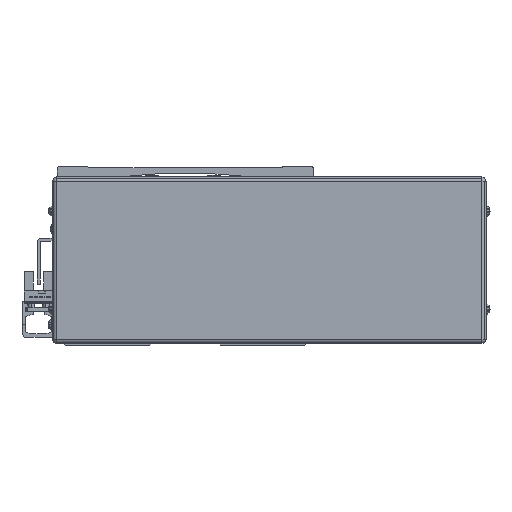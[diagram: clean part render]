
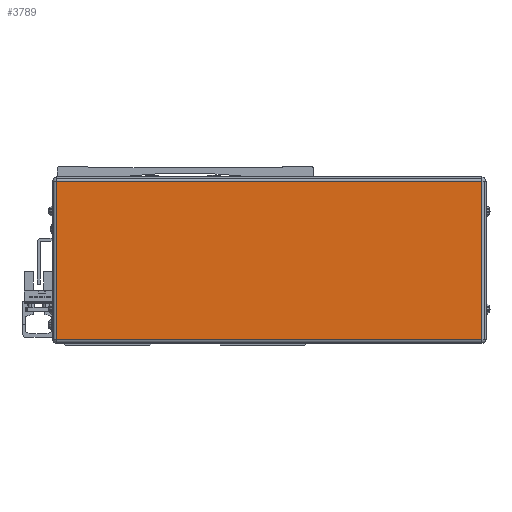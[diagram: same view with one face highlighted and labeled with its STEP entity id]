
A CAD part, front view. The second image highlights one B-rep face of the part: STEP entity #3789.
In plain terms, the highlighted planar face has unit normal (0, -1, 0).
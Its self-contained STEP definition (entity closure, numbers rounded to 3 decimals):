
#3789=ADVANCED_FACE('',(#9617),#9618,.T.);
#9617=FACE_OUTER_BOUND('',#18120,.T.);
#9618=PLANE('',#18121);
#18120=EDGE_LOOP('',(#30073,#30074,#30075,#30076));
#18121=AXIS2_PLACEMENT_3D('',#30077,#30078,#30079);
#30073=ORIENTED_EDGE('',*,*,#52342,.F.);
#30074=ORIENTED_EDGE('',*,*,#52343,.F.);
#30075=ORIENTED_EDGE('',*,*,#52344,.F.);
#30076=ORIENTED_EDGE('',*,*,#52345,.F.);
#30077=CARTESIAN_POINT('',(-259.5,-613.778,-8.));
#30078=DIRECTION('',(0.,-1.0,0.));
#30079=DIRECTION('',(1.0,0.,0.));
#52342=EDGE_CURVE('',#63536,#63537,#63538,.T.);
#52343=EDGE_CURVE('',#63539,#63536,#63540,.T.);
#52344=EDGE_CURVE('',#63541,#63539,#63542,.T.);
#52345=EDGE_CURVE('',#63537,#63541,#63543,.T.);
#63536=VERTEX_POINT('',#79191);
#63537=VERTEX_POINT('',#79192);
#63538=LINE('',#79193,#79194);
#63539=VERTEX_POINT('',#79195);
#63540=LINE('',#79196,#79197);
#63541=VERTEX_POINT('',#79198);
#63542=LINE('',#79199,#79200);
#63543=LINE('',#79201,#79202);
#79191=CARTESIAN_POINT('',(-157.3,-613.778,30.));
#79192=CARTESIAN_POINT('',(-157.3,-613.778,-46.));
#79193=CARTESIAN_POINT('',(-157.3,-613.778,-8.));
#79194=VECTOR('',#95950,10.0);
#79195=CARTESIAN_POINT('',(-361.7,-613.778,30.));
#79196=CARTESIAN_POINT('',(-259.5,-613.778,30.));
#79197=VECTOR('',#95951,10.0);
#79198=CARTESIAN_POINT('',(-361.7,-613.778,-46.));
#79199=CARTESIAN_POINT('',(-361.7,-613.778,-8.));
#79200=VECTOR('',#95952,10.0);
#79201=CARTESIAN_POINT('',(-259.5,-613.778,-46.));
#79202=VECTOR('',#95953,10.0);
#95950=DIRECTION('',(0.0,0.,-1.0));
#95951=DIRECTION('',(1.0,0.,0.));
#95952=DIRECTION('',(0.0,0.,1.0));
#95953=DIRECTION('',(-1.0,0.,0.));
